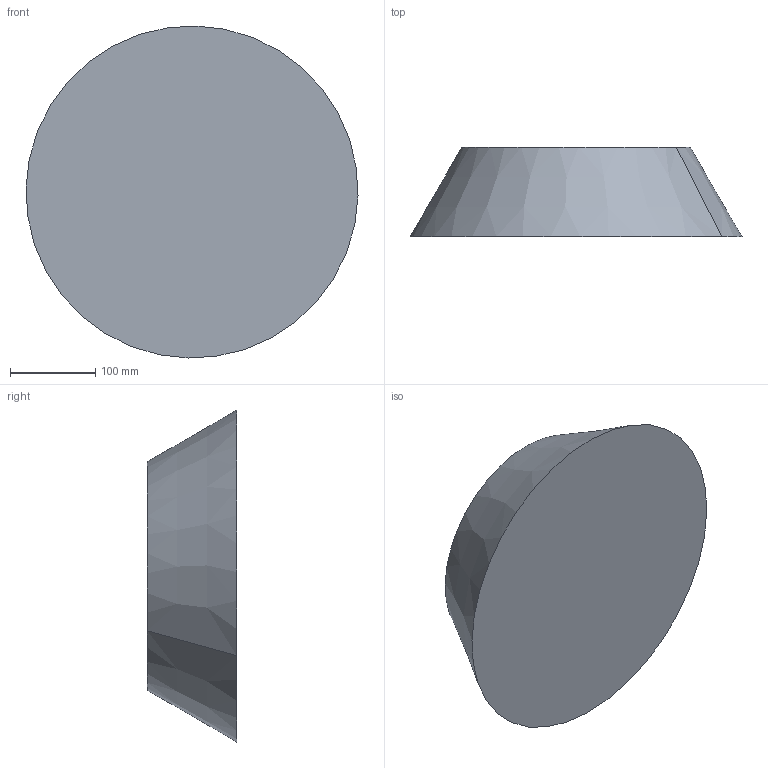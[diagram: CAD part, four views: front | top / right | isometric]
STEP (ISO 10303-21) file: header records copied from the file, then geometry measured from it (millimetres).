
FILE_DESCRIPTION(('CATIA V5 STEP Exchange'),'2;1');
FILE_NAME('C:\_Andres\UNIVERSIDAD\IQS\ASIGNATURAS\DAO\EXF\EXF-16172c\2inicio\Bosch_Dalmau_Ej09_v5.stp','2017-03-05T22:13:09+00:00',('none'),('none'),'CATIA Version 5-6 Release 2014 SP1 HF18','CATIA V5 STEP AP203','none');
FILE_SCHEMA(('CONFIG_CONTROL_DESIGN'));
Length unit declared in the file: millimetre
Products named in the file (1): Bosch_Dalmau_Ej09_v5
Bounding box: 389.89 x 105 x 389.89 mm (x, y, z)
Volume: 9039992.8 mm3; surface area: 303847 mm2
Topology: 1 solids, 2 shells, 8 faces, 12 edges, 8 vertices
Faces by surface type: plane 4, cone 2, cylinder 2
Entity records: 205 total; most frequent: CARTESIAN_POINT 27, DIRECTION 24, ORIENTED_EDGE 24, AXIS2_PLACEMENT_3D 15, EDGE_CURVE 12, ADVANCED_FACE 8, CIRCLE 8, EDGE_LOOP 8
